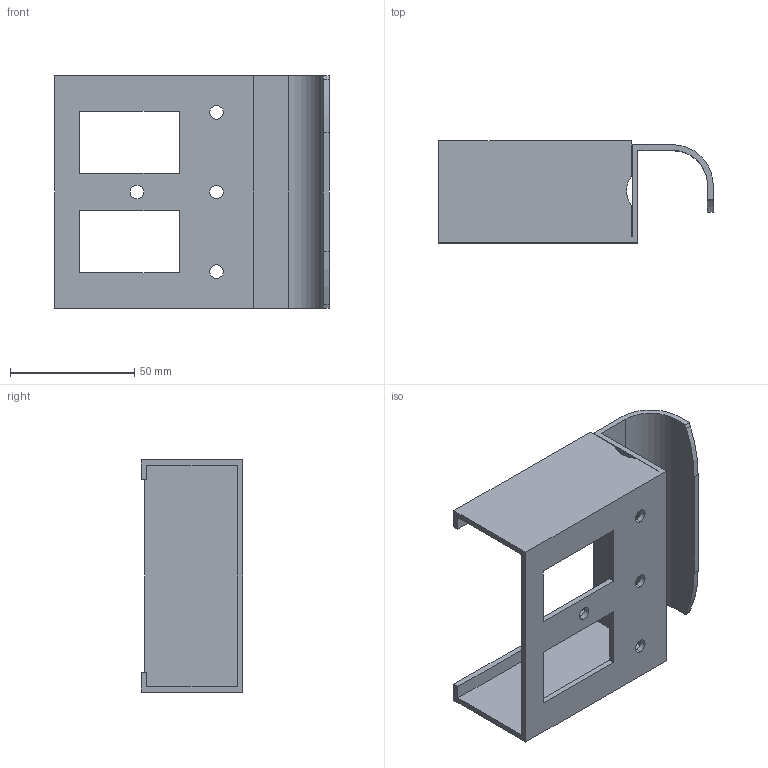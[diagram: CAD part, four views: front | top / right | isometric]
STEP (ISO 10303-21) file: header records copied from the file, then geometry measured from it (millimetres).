
FILE_DESCRIPTION (( 'STEP AP214' ), '1' );
FILE_NAME ('JB-501W.step', '2024-01-17T00:58:12', ( 'catia' ), ( 'HP Inc.' ), 'SwSTEP 2.0', 'SolidWorks 2021', '' );
FILE_SCHEMA (( 'AUTOMOTIVE_DESIGN' ));
Length unit declared in the file: millimetre
Products named in the file (1): JB-501W
Bounding box: 110.3 x 40.9 x 93.4 mm (x, y, z)
Volume: 46299.5 mm3; surface area: 42600.6 mm2
Topology: 1 solids, 1 shells, 48 faces, 138 edges, 92 vertices
Faces by surface type: plane 34, cylinder 14
Entity records: 1628 total; most frequent: CARTESIAN_POINT 279, ORIENTED_EDGE 276, DIRECTION 264, EDGE_CURVE 138, LINE 110, VECTOR 110, VERTEX_POINT 92, AXIS2_PLACEMENT_3D 77
